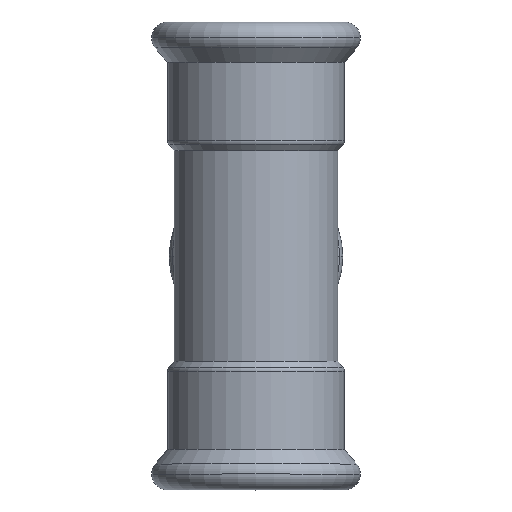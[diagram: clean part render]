
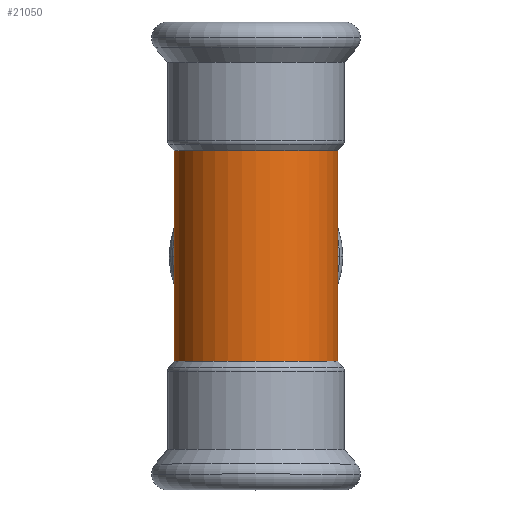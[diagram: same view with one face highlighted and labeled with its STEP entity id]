
A CAD part, top view. The second image highlights one B-rep face of the part: STEP entity #21050.
In plain terms, the highlighted cylindrical face has radius 21 mm (diameter 42 mm), a partial arc.
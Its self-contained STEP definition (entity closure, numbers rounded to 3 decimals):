
#12740=CARTESIAN_POINT('',(-288.511,165.022,
-27.));
#12750=DIRECTION('',(0.,0.,-1.));
#12760=DIRECTION('',(1.,0.,0.));
#12770=AXIS2_PLACEMENT_3D('',#12740,#12750,#12760);
#12780=CYLINDRICAL_SURFACE('',#12770,21.);
#20690=CARTESIAN_POINT('',(-267.511,165.022,
-27.));
#20700=DIRECTION('',(0.,0.,-1.));
#20710=VECTOR('',#20700,1.);
#20720=LINE('',#20690,#20710);
#20730=CARTESIAN_POINT('',(-267.511,165.022,
27.));
#20740=VERTEX_POINT('',#20730);
#20750=CARTESIAN_POINT('',(-267.511,165.022,
-27.));
#20760=VERTEX_POINT('',#20750);
#20770=EDGE_CURVE('',#20740,#20760,#20720,.T.);
#20780=ORIENTED_EDGE('',*,*,#20770,.F.);
#20790=CARTESIAN_POINT('',(-288.511,165.022,
-27.));
#20800=DIRECTION('',(0.,0.,-1.));
#20810=DIRECTION('',(1.,0.,0.));
#20820=AXIS2_PLACEMENT_3D('',#20790,#20800,#20810);
#20830=CIRCLE('',#20820,21.);
#20840=CARTESIAN_POINT('',(-309.511,165.022,
-27.));
#20850=VERTEX_POINT('',#20840);
#20860=EDGE_CURVE('',#20760,#20850,#20830,.T.);
#20870=ORIENTED_EDGE('',*,*,#20860,.F.);
#20880=CARTESIAN_POINT('',(-309.511,165.022,
-27.));
#20890=DIRECTION('',(0.,0.,-1.));
#20900=VECTOR('',#20890,1.);
#20910=LINE('',#20880,#20900);
#20920=CARTESIAN_POINT('',(-309.511,165.022,
27.));
#20930=VERTEX_POINT('',#20920);
#20940=EDGE_CURVE('',#20930,#20850,#20910,.T.);
#20950=ORIENTED_EDGE('',*,*,#20940,.T.);
#20960=CARTESIAN_POINT('',(-288.511,165.022,
27.));
#20970=DIRECTION('',(0.,0.,-1.));
#20980=DIRECTION('',(1.,0.,0.));
#20990=AXIS2_PLACEMENT_3D('',#20960,#20970,#20980);
#21000=CIRCLE('',#20990,21.);
#21010=EDGE_CURVE('',#20740,#20930,#21000,.T.);
#21020=ORIENTED_EDGE('',*,*,#21010,.T.);
#21030=EDGE_LOOP('',(#21020,#20950,#20870,#20780));
#21040=FACE_OUTER_BOUND('',#21030,.T.);
#21050=ADVANCED_FACE('',(#21040),#12780,.T.);
